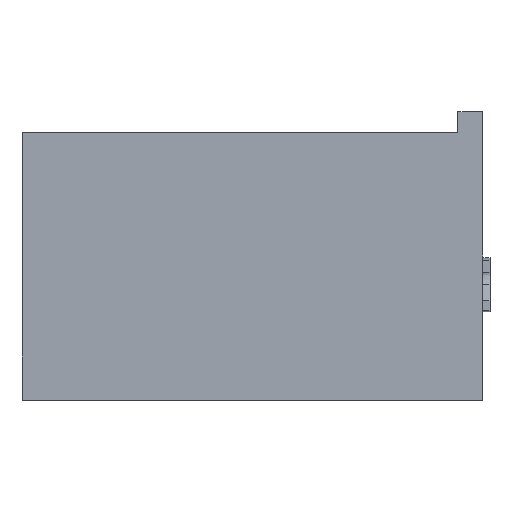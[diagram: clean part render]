
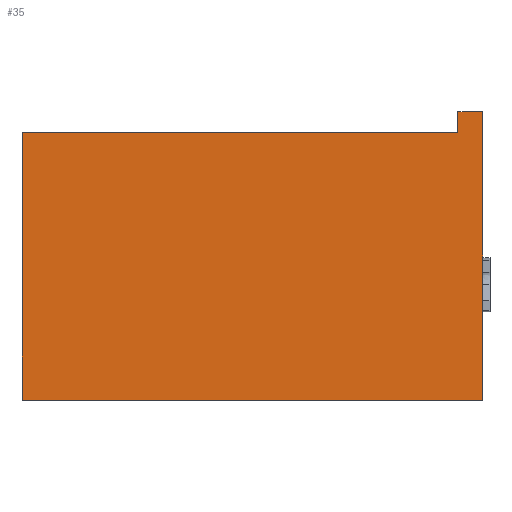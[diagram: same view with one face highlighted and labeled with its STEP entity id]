
A CAD part, left-side view. The second image highlights one B-rep face of the part: STEP entity #35.
In plain terms, the highlighted planar face has unit normal (-1, 0, 0).
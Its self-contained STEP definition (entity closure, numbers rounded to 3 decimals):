
#35 = ADVANCED_FACE('',(#36),#50,.F.);
#36 = FACE_BOUND('',#37,.F.);
#37 = EDGE_LOOP('',(#38,#73,#101,#129,#157,#185));
#38 = ORIENTED_EDGE('',*,*,#39,.F.);
#39 = EDGE_CURVE('',#40,#42,#44,.T.);
#40 = VERTEX_POINT('',#41);
#41 = CARTESIAN_POINT('',(-10.326,-3.,0.));
#42 = VERTEX_POINT('',#43);
#43 = CARTESIAN_POINT('',(-10.326,-3.,35.));
#44 = SURFACE_CURVE('',#45,(#49,#61),.PCURVE_S1.);
#45 = LINE('',#46,#47);
#46 = CARTESIAN_POINT('',(-10.326,-3.,0.));
#47 = VECTOR('',#48,1.);
#48 = DIRECTION('',(0.,0.,1.));
#49 = PCURVE('',#50,#55);
#50 = PLANE('',#51);
#51 = AXIS2_PLACEMENT_3D('',#52,#53,#54);
#52 = CARTESIAN_POINT('',(-10.326,-3.,0.));
#53 = DIRECTION('',(1.,0.,-0.));
#54 = DIRECTION('',(0.,0.,1.));
#55 = DEFINITIONAL_REPRESENTATION('',(#56),#60);
#56 = LINE('',#57,#58);
#57 = CARTESIAN_POINT('',(0.,0.));
#58 = VECTOR('',#59,1.);
#59 = DIRECTION('',(1.,0.));
#60 = ( GEOMETRIC_REPRESENTATION_CONTEXT(2) 
PARAMETRIC_REPRESENTATION_CONTEXT() REPRESENTATION_CONTEXT('2D SPACE',''
  ) );
#61 = PCURVE('',#62,#67);
#62 = PLANE('',#63);
#63 = AXIS2_PLACEMENT_3D('',#64,#65,#66);
#64 = CARTESIAN_POINT('',(-10.326,-3.,0.));
#65 = DIRECTION('',(-0.,1.,0.));
#66 = DIRECTION('',(0.,0.,1.));
#67 = DEFINITIONAL_REPRESENTATION('',(#68),#72);
#68 = LINE('',#69,#70);
#69 = CARTESIAN_POINT('',(0.,0.));
#70 = VECTOR('',#71,1.);
#71 = DIRECTION('',(1.,0.));
#72 = ( GEOMETRIC_REPRESENTATION_CONTEXT(2) 
PARAMETRIC_REPRESENTATION_CONTEXT() REPRESENTATION_CONTEXT('2D SPACE',''
  ) );
#73 = ORIENTED_EDGE('',*,*,#74,.F.);
#74 = EDGE_CURVE('',#75,#40,#77,.T.);
#75 = VERTEX_POINT('',#76);
#76 = CARTESIAN_POINT('',(-10.326,52.935,0.));
#77 = SURFACE_CURVE('',#78,(#82,#89),.PCURVE_S1.);
#78 = LINE('',#79,#80);
#79 = CARTESIAN_POINT('',(-10.326,52.935,0.));
#80 = VECTOR('',#81,1.);
#81 = DIRECTION('',(0.,-1.,0.));
#82 = PCURVE('',#50,#83);
#83 = DEFINITIONAL_REPRESENTATION('',(#84),#88);
#84 = LINE('',#85,#86);
#85 = CARTESIAN_POINT('',(0.,-55.935));
#86 = VECTOR('',#87,1.);
#87 = DIRECTION('',(0.,1.));
#88 = ( GEOMETRIC_REPRESENTATION_CONTEXT(2) 
PARAMETRIC_REPRESENTATION_CONTEXT() REPRESENTATION_CONTEXT('2D SPACE',''
  ) );
#89 = PCURVE('',#90,#95);
#90 = PLANE('',#91);
#91 = AXIS2_PLACEMENT_3D('',#92,#93,#94);
#92 = CARTESIAN_POINT('',(-10.326,-3.,0.));
#93 = DIRECTION('',(0.,0.,1.));
#94 = DIRECTION('',(1.,0.,-0.));
#95 = DEFINITIONAL_REPRESENTATION('',(#96),#100);
#96 = LINE('',#97,#98);
#97 = CARTESIAN_POINT('',(0.,55.935));
#98 = VECTOR('',#99,1.);
#99 = DIRECTION('',(0.,-1.));
#100 = ( GEOMETRIC_REPRESENTATION_CONTEXT(2) 
PARAMETRIC_REPRESENTATION_CONTEXT() REPRESENTATION_CONTEXT('2D SPACE',''
  ) );
#101 = ORIENTED_EDGE('',*,*,#102,.T.);
#102 = EDGE_CURVE('',#75,#103,#105,.T.);
#103 = VERTEX_POINT('',#104);
#104 = CARTESIAN_POINT('',(-10.326,52.935,32.5));
#105 = SURFACE_CURVE('',#106,(#110,#117),.PCURVE_S1.);
#106 = LINE('',#107,#108);
#107 = CARTESIAN_POINT('',(-10.326,52.935,0.));
#108 = VECTOR('',#109,1.);
#109 = DIRECTION('',(0.,0.,1.));
#110 = PCURVE('',#50,#111);
#111 = DEFINITIONAL_REPRESENTATION('',(#112),#116);
#112 = LINE('',#113,#114);
#113 = CARTESIAN_POINT('',(0.,-55.935));
#114 = VECTOR('',#115,1.);
#115 = DIRECTION('',(1.,0.));
#116 = ( GEOMETRIC_REPRESENTATION_CONTEXT(2) 
PARAMETRIC_REPRESENTATION_CONTEXT() REPRESENTATION_CONTEXT('2D SPACE',''
  ) );
#117 = PCURVE('',#118,#123);
#118 = PLANE('',#119);
#119 = AXIS2_PLACEMENT_3D('',#120,#121,#122);
#120 = CARTESIAN_POINT('',(-10.326,52.935,0.));
#121 = DIRECTION('',(-0.,1.,0.));
#122 = DIRECTION('',(0.,0.,1.));
#123 = DEFINITIONAL_REPRESENTATION('',(#124),#128);
#124 = LINE('',#125,#126);
#125 = CARTESIAN_POINT('',(0.,0.));
#126 = VECTOR('',#127,1.);
#127 = DIRECTION('',(1.,0.));
#128 = ( GEOMETRIC_REPRESENTATION_CONTEXT(2) 
PARAMETRIC_REPRESENTATION_CONTEXT() REPRESENTATION_CONTEXT('2D SPACE',''
  ) );
#129 = ORIENTED_EDGE('',*,*,#130,.F.);
#130 = EDGE_CURVE('',#131,#103,#133,.T.);
#131 = VERTEX_POINT('',#132);
#132 = CARTESIAN_POINT('',(-10.326,0.,32.5));
#133 = SURFACE_CURVE('',#134,(#138,#145),.PCURVE_S1.);
#134 = LINE('',#135,#136);
#135 = CARTESIAN_POINT('',(-10.326,0.,32.5));
#136 = VECTOR('',#137,1.);
#137 = DIRECTION('',(-0.,1.,0.));
#138 = PCURVE('',#50,#139);
#139 = DEFINITIONAL_REPRESENTATION('',(#140),#144);
#140 = LINE('',#141,#142);
#141 = CARTESIAN_POINT('',(32.5,-3.));
#142 = VECTOR('',#143,1.);
#143 = DIRECTION('',(0.,-1.));
#144 = ( GEOMETRIC_REPRESENTATION_CONTEXT(2) 
PARAMETRIC_REPRESENTATION_CONTEXT() REPRESENTATION_CONTEXT('2D SPACE',''
  ) );
#145 = PCURVE('',#146,#151);
#146 = PLANE('',#147);
#147 = AXIS2_PLACEMENT_3D('',#148,#149,#150);
#148 = CARTESIAN_POINT('',(-10.326,0.,32.5));
#149 = DIRECTION('',(0.,0.,1.));
#150 = DIRECTION('',(1.,0.,-0.));
#151 = DEFINITIONAL_REPRESENTATION('',(#152),#156);
#152 = LINE('',#153,#154);
#153 = CARTESIAN_POINT('',(0.,0.));
#154 = VECTOR('',#155,1.);
#155 = DIRECTION('',(0.,1.));
#156 = ( GEOMETRIC_REPRESENTATION_CONTEXT(2) 
PARAMETRIC_REPRESENTATION_CONTEXT() REPRESENTATION_CONTEXT('2D SPACE',''
  ) );
#157 = ORIENTED_EDGE('',*,*,#158,.T.);
#158 = EDGE_CURVE('',#131,#159,#161,.T.);
#159 = VERTEX_POINT('',#160);
#160 = CARTESIAN_POINT('',(-10.326,0.,35.));
#161 = SURFACE_CURVE('',#162,(#166,#173),.PCURVE_S1.);
#162 = LINE('',#163,#164);
#163 = CARTESIAN_POINT('',(-10.326,0.,0.));
#164 = VECTOR('',#165,1.);
#165 = DIRECTION('',(0.,0.,1.));
#166 = PCURVE('',#50,#167);
#167 = DEFINITIONAL_REPRESENTATION('',(#168),#172);
#168 = LINE('',#169,#170);
#169 = CARTESIAN_POINT('',(0.,-3.));
#170 = VECTOR('',#171,1.);
#171 = DIRECTION('',(1.,0.));
#172 = ( GEOMETRIC_REPRESENTATION_CONTEXT(2) 
PARAMETRIC_REPRESENTATION_CONTEXT() REPRESENTATION_CONTEXT('2D SPACE',''
  ) );
#173 = PCURVE('',#174,#179);
#174 = PLANE('',#175);
#175 = AXIS2_PLACEMENT_3D('',#176,#177,#178);
#176 = CARTESIAN_POINT('',(-10.326,0.,0.));
#177 = DIRECTION('',(-0.,1.,0.));
#178 = DIRECTION('',(0.,0.,1.));
#179 = DEFINITIONAL_REPRESENTATION('',(#180),#184);
#180 = LINE('',#181,#182);
#181 = CARTESIAN_POINT('',(0.,0.));
#182 = VECTOR('',#183,1.);
#183 = DIRECTION('',(1.,0.));
#184 = ( GEOMETRIC_REPRESENTATION_CONTEXT(2) 
PARAMETRIC_REPRESENTATION_CONTEXT() REPRESENTATION_CONTEXT('2D SPACE',''
  ) );
#185 = ORIENTED_EDGE('',*,*,#186,.F.);
#186 = EDGE_CURVE('',#42,#159,#187,.T.);
#187 = SURFACE_CURVE('',#188,(#192,#199),.PCURVE_S1.);
#188 = LINE('',#189,#190);
#189 = CARTESIAN_POINT('',(-10.326,-3.,35.));
#190 = VECTOR('',#191,1.);
#191 = DIRECTION('',(-0.,1.,0.));
#192 = PCURVE('',#50,#193);
#193 = DEFINITIONAL_REPRESENTATION('',(#194),#198);
#194 = LINE('',#195,#196);
#195 = CARTESIAN_POINT('',(35.,0.));
#196 = VECTOR('',#197,1.);
#197 = DIRECTION('',(0.,-1.));
#198 = ( GEOMETRIC_REPRESENTATION_CONTEXT(2) 
PARAMETRIC_REPRESENTATION_CONTEXT() REPRESENTATION_CONTEXT('2D SPACE',''
  ) );
#199 = PCURVE('',#200,#205);
#200 = PLANE('',#201);
#201 = AXIS2_PLACEMENT_3D('',#202,#203,#204);
#202 = CARTESIAN_POINT('',(-10.326,-3.,35.));
#203 = DIRECTION('',(0.,0.,1.));
#204 = DIRECTION('',(1.,0.,-0.));
#205 = DEFINITIONAL_REPRESENTATION('',(#206),#210);
#206 = LINE('',#207,#208);
#207 = CARTESIAN_POINT('',(0.,0.));
#208 = VECTOR('',#209,1.);
#209 = DIRECTION('',(0.,1.));
#210 = ( GEOMETRIC_REPRESENTATION_CONTEXT(2) 
PARAMETRIC_REPRESENTATION_CONTEXT() REPRESENTATION_CONTEXT('2D SPACE',''
  ) );
